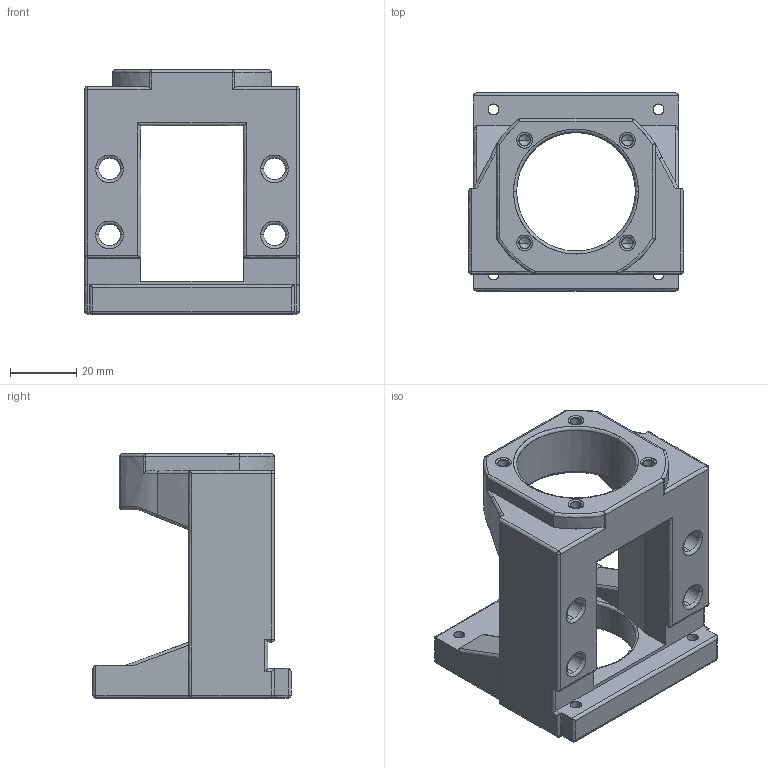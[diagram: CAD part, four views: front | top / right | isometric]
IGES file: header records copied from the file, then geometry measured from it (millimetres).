
Start section: SolidWorks IGES file using analytic representation for surfaces
Global section: file name: C:\Users\117\Desktop\MBA12-BF.IGS; native system: SolidWorks 2017; preprocessor: SolidWorks 2017; author: 117; date: 180103.102714; units: millimetre
Bounding box: 65 x 60 x 74 mm (x, y, z)
Surface area: 26231.7 mm2 (no closed solid volume)
Topology: 0 solids, 0 shells, 227 faces, 2655 edges, 2627 vertices
Faces by surface type: revolution 142, bspline 85
